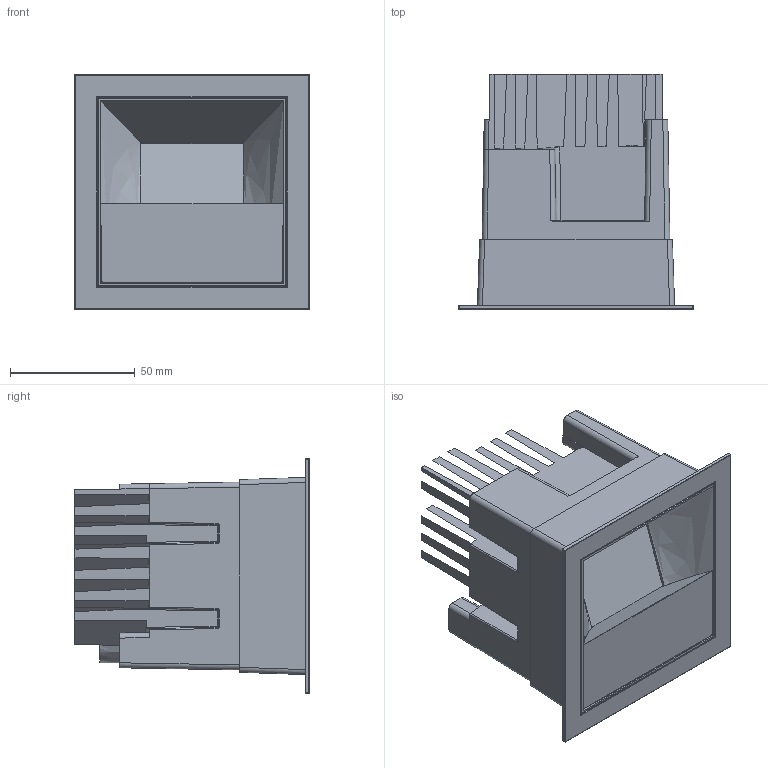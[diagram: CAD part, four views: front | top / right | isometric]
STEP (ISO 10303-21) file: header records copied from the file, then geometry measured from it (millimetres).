
FILE_DESCRIPTION (( 'STEP AP214' ), '1' );
FILE_NAME ('WG-H-PTD3-FA-SBT-SWW.STEP', '2023-02-03T19:55:01', ( '' ), ( '' ), 'SwSTEP 2.0', 'SolidWorks 2021', '' );
FILE_SCHEMA (( 'AUTOMOTIVE_DESIGN' ));
Length unit declared in the file: millimetre
Products named in the file (8): 720-10052-304; 310-10030-101_92005A116; 720-10041-300; WG-H-PTD3-FA-SBT-SWW; 720-10051-304; 340-10026-400_stretch out; 760-10047-400; WG-CV-PTD3-SWW-WW-_-___Solite Lens
Assembly tree (8 placements, depth 3):
  WG-H-PTD3-FA-SBT-SWW
    720-10041-300
    WG-CV-PTD3-SWW-WW-_-___Solite Lens
      720-10051-304
      720-10052-304
      310-10030-101_92005A116  x2
      340-10026-400_stretch out
      760-10047-400
Bounding box: 94 x 94 x 94 mm (x, y, z)
Volume: 175301.5 mm3; surface area: 142659.1 mm2
Topology: 7 solids, 7 shells, 1210 faces, 3180 edges, 1921 vertices
Faces by surface type: cylinder 480, plane 339, bspline 208, sphere 75, cone 65, torus 43
Entity records: 38487 total; most frequent: CARTESIAN_POINT 13663, ORIENTED_EDGE 5620, DIRECTION 4569, EDGE_CURVE 2810, VERTEX_POINT 1728, AXIS2_PLACEMENT_3D 1675, VECTOR 1219, LINE 1219
